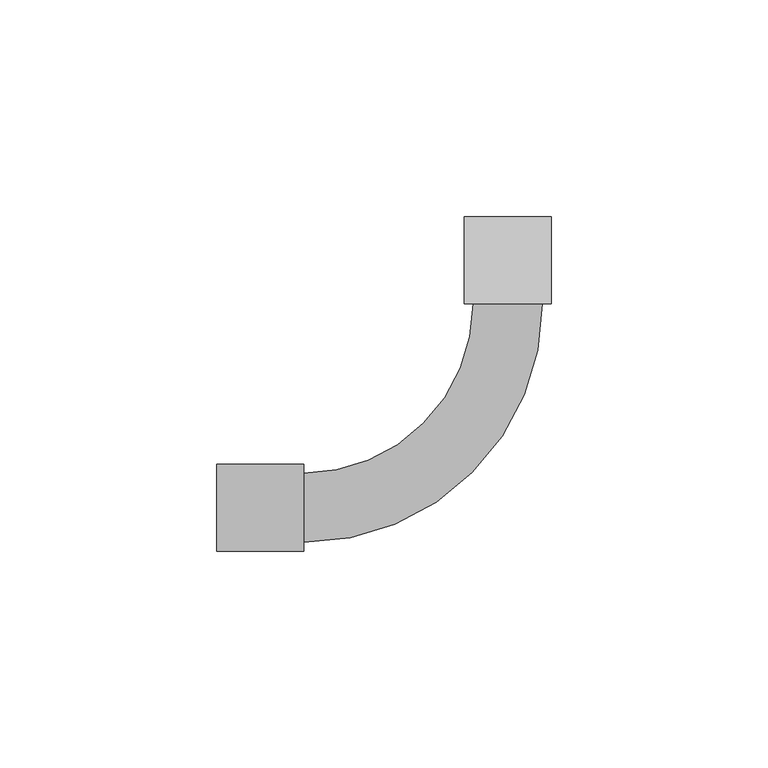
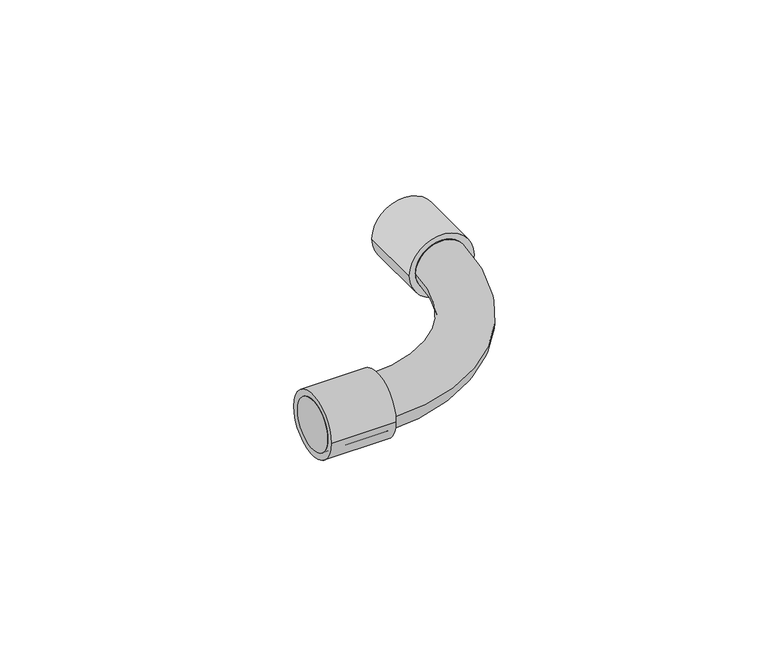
"""IFC4 building model written with IfcOpenShell, lengths in millimetres: cable carrier fitting geometry, Поворот на 90 труба-труба CRSG : Поворот на 90 труба-труба CRSG."""

import ifcopenshell
import ifcopenshell.guid

model = None  # the IFC model being written
_history = None  # IfcOwnerHistory: only IFC2X3 demands one
_inside = {}  # id of a spatial element -> (the spatial element, [elements in it])
_under = {}  # id of a project, library or spatial element -> (it, [spatial elements below it])
_declared = {}  # id of a project -> (the project, [libraries it declares])
_typed = {}  # id of a type object -> (the type object, [elements of that type])
_made_of = {}  # id of a material, layer set ... -> (it, [elements and type objects made of it])


def new_model(schema):
    """Start an empty IFC model of exactly this schema.

    Asked for "IFC4X3", IfcOpenShell would pick the latest addendum, in which some entities
    have other attributes; the version numbers below select the first issue.
    IFC2X3 requires an IfcOwnerHistory on every rooted entity: one is made here for all.
    """
    global model, _history
    if schema == "IFC4X3":
        model = ifcopenshell.file(schema_version=(4, 3, 0, 0))
    else:
        model = ifcopenshell.file(schema=schema)
    _inside.clear()
    _under.clear()
    _declared.clear()
    _typed.clear()
    _made_of.clear()
    _history = None
    if model.schema == "IFC2X3":
        org = make("IfcOrganization", Name="unknown")
        user = make(
            "IfcPersonAndOrganization",
            ThePerson=make("IfcPerson", FamilyName="unknown"),
            TheOrganization=org,
        )
        app = make(
            "IfcApplication",
            ApplicationDeveloper=org,
            Version="unknown",
            ApplicationFullName="unknown",
            ApplicationIdentifier="unknown",
        )
        _history = make(
            "IfcOwnerHistory",
            OwningUser=user,
            OwningApplication=app,
            ChangeAction="ADDED",
            CreationDate=0,
        )
    return model


def make(cls, **values):
    """One entity of the class cls with the attributes given. An attribute that is None is left unset."""
    return model.create_entity(
        cls, **{name: value for name, value in values.items() if value is not None}
    )


def rooted(cls, **values):
    """An entity with a GlobalId (a new one), such as an element, a storey or a relation."""
    return make(cls, GlobalId=ifcopenshell.guid.new(), OwnerHistory=_history, **values)


def si_unit(unit_type, name, prefix=None):
    """IfcSIUnit, for example si_unit("LENGTHUNIT", "METRE", prefix="MILLI")."""
    return make("IfcSIUnit", UnitType=unit_type, Prefix=prefix, Name=name)


def assignment(units):
    """IfcUnitAssignment: the units of a project."""
    return None if units is None else make("IfcUnitAssignment", Units=units)


def point(xyz):
    """IfcCartesianPoint."""
    return None if xyz is None else make("IfcCartesianPoint", Coordinates=xyz)


def direction(xyz):
    """IfcDirection."""
    return None if xyz is None else make("IfcDirection", DirectionRatios=xyz)


def frame(location, z_axis=None, x_axis=None):
    """IfcAxis2Placement3D, a coordinate frame: its origin and axes. An axis left out is left unset."""
    return make(
        "IfcAxis2Placement3D",
        Location=point(location),
        Axis=direction(z_axis),
        RefDirection=direction(x_axis),
    )


def frame_2d(location, x_axis=None):
    """IfcAxis2Placement2D, a coordinate frame in the plane: its origin and x axis."""
    return make(
        "IfcAxis2Placement2D", Location=point(location), RefDirection=direction(x_axis)
    )


def origin():
    """The frame at (0, 0, 0) with its axes left unset."""
    return frame((0.0, 0.0, 0.0))


def origin_2d():
    """The frame at (0, 0) in the plane with its x axis left unset."""
    return frame_2d((0.0, 0.0))


def place(relative_to, where):
    """IfcLocalPlacement: puts the frame where relative to a parent placement (None: the world)."""
    return make(
        "IfcLocalPlacement", PlacementRelTo=relative_to, RelativePlacement=where
    )


def context(
    kind, dimensions, precision=None, world=None, true_north=None, identifier=None
):
    """IfcGeometricRepresentationContext, for example the 3D "Model" context."""
    return make(
        "IfcGeometricRepresentationContext",
        ContextIdentifier=identifier,
        ContextType=kind,
        CoordinateSpaceDimension=dimensions,
        Precision=precision,
        WorldCoordinateSystem=world,
        TrueNorth=true_north,
    )


def project(units=None, contexts=None):
    """IfcProject with its units and contexts."""
    return rooted(
        "IfcProject",
        Name="project",
        RepresentationContexts=contexts,
        UnitsInContext=assignment(units),
    )


def spatial(cls, under=None, at=None, **own):
    """A site, building, storey or space (cls), placed at a placement, below another one or the project."""
    s = rooted(cls, ObjectPlacement=at, **own)
    if under is not None:
        _under.setdefault(under.id(), (under, []))[1].append(s)
    return s


def circle_curve(where, radius):
    """IfcCircle in the frame where."""
    return make("IfcCircle", Position=where, Radius=radius)


def ellipse_curve(where, semi_axis1, semi_axis2):
    """IfcEllipse in the frame where."""
    return make(
        "IfcEllipse", Position=where, SemiAxis1=semi_axis1, SemiAxis2=semi_axis2
    )


def trimmed(basis, trim1, trim2, sense, master):
    """IfcTrimmedCurve: the piece of a basis curve between two trims."""
    return make(
        "IfcTrimmedCurve",
        BasisCurve=basis,
        Trim1=trim1,
        Trim2=trim2,
        SenseAgreement=sense,
        MasterRepresentation=master,
    )


def segment(curve, same_sense, transition):
    """IfcCompositeCurveSegment."""
    return make(
        "IfcCompositeCurveSegment",
        Transition=transition,
        SameSense=same_sense,
        ParentCurve=curve,
    )


def composite_curve(segments, self_intersect=None):
    """IfcCompositeCurve: segments joined end to end."""
    return make("IfcCompositeCurve", Segments=segments, SelfIntersect=self_intersect)


def outline(outer, holes=None, kind="AREA"):
    """IfcArbitraryClosedProfileDef: a profile drawn as a closed curve; with holes, ...WithVoids."""
    if holes is None:
        return make("IfcArbitraryClosedProfileDef", ProfileType=kind, OuterCurve=outer)
    return make(
        "IfcArbitraryProfileDefWithVoids",
        ProfileType=kind,
        OuterCurve=outer,
        InnerCurves=holes,
    )


def extrude(swept, where, along, depth):
    """IfcExtrudedAreaSolid: the profile swept, set in the frame where, extruded along a direction by depth."""
    return make(
        "IfcExtrudedAreaSolid",
        SweptArea=swept,
        Position=where,
        ExtrudedDirection=direction(along),
        Depth=depth,
    )


def shape(context_of_items, identifier, shape_type, items):
    """IfcShapeRepresentation: the items that make up one representation, for example the "Body"."""
    return make(
        "IfcShapeRepresentation",
        ContextOfItems=context_of_items,
        RepresentationIdentifier=identifier,
        RepresentationType=shape_type,
        Items=items,
    )


def source(mapping_origin, context_of_items, identifier, shape_type, items):
    """IfcRepresentationMap: a shape defined once, which mapped items show again and again."""
    return make(
        "IfcRepresentationMap",
        MappingOrigin=mapping_origin,
        MappedRepresentation=shape(context_of_items, identifier, shape_type, items),
    )


def transform(
    local_origin,
    x_axis=None,
    y_axis=None,
    z_axis=None,
    scale=None,
    scale2=None,
    scale3=None,
    uniform=True,
):
    """IfcCartesianTransformationOperator3D, or its non-uniform kind. x_axis, y_axis, z_axis: its Axis1, 2, 3."""
    if uniform:
        return make(
            "IfcCartesianTransformationOperator3D",
            Axis1=direction(x_axis),
            Axis2=direction(y_axis),
            LocalOrigin=point(local_origin),
            Scale=scale,
            Axis3=direction(z_axis),
        )
    return make(
        "IfcCartesianTransformationOperator3DnonUniform",
        Axis1=direction(x_axis),
        Axis2=direction(y_axis),
        LocalOrigin=point(local_origin),
        Scale=scale,
        Axis3=direction(z_axis),
        Scale2=scale2,
        Scale3=scale3,
    )


def mapped(mapping_source, mapping_target):
    """IfcMappedItem: shows the shape of a source again, moved by a transform."""
    return make(
        "IfcMappedItem", MappingSource=mapping_source, MappingTarget=mapping_target
    )


def made_of(thing, what):
    """Note that an element or type object is made of a material, layer set ...; save() writes the relation."""
    if what is not None:
        _made_of.setdefault(what.id(), (what, []))[1].append(thing)
    return thing


def element(
    cls,
    number,
    at=None,
    inside=None,
    cuts=None,
    type_object=None,
    material=None,
    context=None,
    identifier="Body",
    shape_type=None,
    held_by="IfcProductDefinitionShape",
    body=None,
    shapes=None,
    **own,
):
    """One element of the class cls, such as IfcWall. Its Tag is "e" and its number.

    at: its placement. inside: the storey or other place that contains it. cuts: it is an
    opening in that element (IfcRelVoidsElement). A single representation is given by context,
    identifier, shape_type and body (its items); several are given by shapes. held_by: the class
    of the entity that holds the representations. save() writes the other relations.
    """
    e = rooted(cls, Tag="e%d" % number, ObjectPlacement=at, **own)
    if body is not None:
        shapes = [shape(context, identifier, shape_type, body)]
    if shapes is not None:
        e.Representation = make(held_by, Representations=shapes)
    if inside is not None:
        _inside.setdefault(inside.id(), (inside, []))[1].append(e)
    if cuts is not None:
        rooted(
            "IfcRelVoidsElement", RelatingBuildingElement=cuts, RelatedOpeningElement=e
        )
    if type_object is not None:
        _typed.setdefault(type_object.id(), (type_object, []))[1].append(e)
    return made_of(e, material)


def aggregate(whole, parts):
    """IfcRelAggregates: a whole, such as a stair, and the parts it consists of."""
    return rooted("IfcRelAggregates", RelatingObject=whole, RelatedObjects=parts)


def save(model, path):
    """Write the relations noted so far, then the file.

    IfcRelAggregates (storeys below a building ...), IfcRelContainedInSpatialStructure (elements
    in a storey), IfcRelDefinesByType, IfcRelAssociatesMaterial and IfcRelDeclares: one each for
    every whole, place, type object, material and project.
    """
    for whole, parts in _under.values():
        aggregate(whole, parts)
    for where, things in _inside.values():
        rooted(
            "IfcRelContainedInSpatialStructure",
            RelatedElements=things,
            RelatingStructure=where,
        )
    for kind, things in _typed.values():
        rooted("IfcRelDefinesByType", RelatedObjects=things, RelatingType=kind)
    for what, things in _made_of.values():
        rooted("IfcRelAssociatesMaterial", RelatedObjects=things, RelatingMaterial=what)
    for by, libraries in _declared.values():
        rooted("IfcRelDeclares", RelatingContext=by, RelatedDefinitions=libraries)
    model.write(path)


def plane_surface(at):
    """IfcPlane: the flat surface through the origin of the frame at, square to its z axis."""
    return make("IfcPlane", Position=at)


def cylinder_surface(at, radius):
    """IfcCylindricalSurface: all points at the distance radius from the z axis of the frame at."""
    return make("IfcCylindricalSurface", Position=at, Radius=radius)


def revolved_surface(curve, axis_point, axis_direction):
    """IfcSurfaceOfRevolution: the curve turned about the line through axis_point along axis_direction."""
    return make(
        "IfcSurfaceOfRevolution",
        SweptCurve=make("IfcArbitraryOpenProfileDef", ProfileType="CURVE", Curve=curve),
        AxisPosition=make("IfcAxis1Placement", Location=point(axis_point), Axis=direction(axis_direction)),
    )


def advanced_brep(points, edges, surfaces, faces):
    """IfcAdvancedBrep: a solid bounded by faces that lie on surfaces and meet in shared edges.

    An edge is (start, end): straight between two places in points (the first is 0);
    or (start, end, curve); or (start, end, curve, False) where it runs against its curve.
    A face is (place in surfaces, loops), or (place, loops, False) where it looks against
    its surface's normal. A loop lists edges by number (the first is 1), with a minus sign
    where the edge is run from its end to its start. The first loop is the outer one.
    """
    corners = [point(p) for p in points]
    vertices = [make("IfcVertexPoint", VertexGeometry=c) for c in corners]
    made = []
    for start, end, *more in edges:
        made.append(
            make(
                "IfcEdgeCurve",
                EdgeStart=vertices[start],
                EdgeEnd=vertices[end],
                EdgeGeometry=more[0] if more else make("IfcPolyline", Points=[corners[start], corners[end]]),
                SameSense=more[1] if len(more) > 1 else True,
            )
        )
    hull = []
    for where, loops, *sense in faces:
        bounds = []
        for j, loop in enumerate(loops):
            ring = [make("IfcOrientedEdge", EdgeElement=made[abs(k) - 1], Orientation=k > 0) for k in loop]
            bounds.append(
                make(
                    "IfcFaceOuterBound" if j == 0 else "IfcFaceBound",
                    Bound=make("IfcEdgeLoop", EdgeList=ring),
                    Orientation=True,
                )
            )
        hull.append(make("IfcAdvancedFace", Bounds=bounds, FaceSurface=surfaces[where], SameSense=sense[0] if sense else True))
    return make("IfcAdvancedBrep", Outer=make("IfcClosedShell", CfsFaces=hull))


def cable_carrier_fitting_4a6c0bc6(model_context):
    return source(origin(), model_context, "Body", "SolidModel", [
        advanced_brep(
        [(-67.0814, -7.99973, 0.0), (-67.0814, 7.99973, 0.0), (-47.0916, -7.99973, 0.0), (-47.0916, 7.99973, 0.0), (-7.99973, 47.0916, 0.0), (7.99973, 47.0916, 0.0), (7.99973, 67.0814, 0.0), (-7.99973, 67.0814, 0.0)],
        [
            (0, 1, circle_curve(frame((-67.0814, 0.0, 0.0), z_axis=(-1.0, 0.0, 0.0), x_axis=(0.0, 1.0, 0.0)), 7.99973)),
            (1, 0, circle_curve(frame((-67.0814, 0.0, 0.0), z_axis=(-1.0, 0.0, 0.0), x_axis=(0.0, 1.0, 0.0)), 7.99973)),
            (0, 2),
            (2, 3, circle_curve(frame((-47.0916, 0.0, 0.0), z_axis=(-1.0, 0.0, 0.0), x_axis=(0.0, 1.0, 0.0)), 7.99973)),
            (3, 1),
            (3, 2, circle_curve(frame((-47.0916, 0.0, 0.0), z_axis=(-1.0, 0.0, 0.0), x_axis=(0.0, 1.0, 0.0)), 7.99973)),
            (4, 3, circle_curve(frame((-47.0916, 47.0916, 0.0), z_axis=(0.0, 0.0, -1.0), x_axis=(0.0, -1.0, 0.0)), 39.09187)),
            (2, 5, circle_curve(frame((-47.0916, 47.0916, 0.0), z_axis=(0.0, 0.0, 1.0), x_axis=(0.0, -1.0, 0.0)), 55.09133)),
            (5, 4, circle_curve(frame((0.0, 47.0916, 0.0), z_axis=(0.0, -1.0, 0.0), x_axis=(-1.0, 0.0, 0.0)), 7.99973)),
            (4, 5, circle_curve(frame((0.0, 47.0916, 0.0), z_axis=(0.0, -1.0, 0.0), x_axis=(-1.0, 0.0, 0.0)), 7.99973)),
            (6, 7, circle_curve(frame((0.0, 67.0814, 0.0), z_axis=(0.0, 1.0, 0.0), x_axis=(-1.0, 0.0, 0.0)), 7.99973)),
            (7, 6, circle_curve(frame((0.0, 67.0814, 0.0), z_axis=(0.0, 1.0, 0.0), x_axis=(-1.0, 0.0, 0.0)), 7.99973)),
            (5, 6),
            (7, 4),
        ],
        [
            plane_surface(frame((-67.0814, 0.0, 0.0), z_axis=(-1.0, 0.0, 0.0), x_axis=(0.0, 0.0, 1.0))),
            cylinder_surface(frame((-67.0814, 0.0, 0.0), z_axis=(-1.0, 0.0, 0.0), x_axis=(0.0, 1.0, 0.0)), 7.99973),
            revolved_surface(trimmed(ellipse_curve(frame((-47.0916, 0.0, 0.0), z_axis=(-1.0, 0.0, 0.0), x_axis=(0.0, 1.0, 0.0)), 7.99973, 7.99973), [point((-47.0916, -7.99973, 0.0))], [point((-47.0916, 7.99973, 0.0))], True, "CARTESIAN"), (-47.0916, 47.0916, 0.0), (0.0, 0.0, 1.0)),
            revolved_surface(trimmed(ellipse_curve(frame((-47.0916, 0.0, 0.0), z_axis=(-1.0, 0.0, 0.0), x_axis=(0.0, 1.0, 0.0)), 7.99973, 7.99973), [point((-47.0916, 7.99973, 0.0))], [point((-47.0916, -7.99973, 0.0))], True, "CARTESIAN"), (-47.0916, 47.0916, 0.0), (0.0, 0.0, 1.0)),
            plane_surface(frame((0.0, 67.0814, 0.0), z_axis=(0.0, 1.0, 0.0), x_axis=(0.0, 0.0, 1.0))),
            cylinder_surface(frame((0.0, 47.0916, 0.0), z_axis=(0.0, -1.0, 0.0), x_axis=(-1.0, 0.0, 0.0)), 7.99973),
        ],
        [
            (0, [[1, 2]]),
            (1, [[-1, 3, 4, 5]]),
            (1, [[-2, -5, 6, -3]]),
            (2, [[7, -4, 8, 9]]),
            (3, [[-8, -6, -7, 10]]),
            (4, [[11, 12]]),
            (5, [[-9, 13, -12, 14]]),
            (5, [[-10, -14, -11, -13]]),
        ],
    ),
        extrude(outline(composite_curve([segment(trimmed(circle_curve(origin_2d(), 10.0), [point((-10.0, 0.0))], [point((10.0, 0.0))], False, "CARTESIAN"), True, "CONTINUOUS"), segment(trimmed(circle_curve(origin_2d(), 10.0), [point((10.0, 0.0))], [point((-10.0, 0.0))], False, "CARTESIAN"), True, "CONTINUOUS")], self_intersect=False)), frame((-67.0814, 0.0, 0.0), z_axis=(1.0, 0.0, 0.0), x_axis=(0.0, 1.0, 0.0)), (0.0, 0.0, 1.0), 19.9898),
        extrude(outline(composite_curve([segment(trimmed(circle_curve(origin_2d(), 10.0), [point((0.0, 10.0))], [point((0.0, -10.0))], False, "CARTESIAN"), True, "CONTINUOUS"), segment(trimmed(circle_curve(origin_2d(), 10.0), [point((0.0, -10.0))], [point((0.0, 10.0))], False, "CARTESIAN"), True, "CONTINUOUS")], self_intersect=False)), frame((0.0, 47.0916, 0.0), z_axis=(0.0, 1.0, 0.0), x_axis=(0.0, 0.0, 1.0)), (0.0, 0.0, 1.0), 19.9898),
    ])


if __name__ == "__main__":
    model = new_model("IFC4")
    model_context = context("Model", 3, world=origin())
    ifc_project = project(units=[si_unit("LENGTHUNIT", "METRE", prefix="MILLI")], contexts=[model_context])
    site = spatial("IfcSite", under=ifc_project)
    building = spatial("IfcBuilding", under=site)
    placement = place(None, origin())
    cable_carrier_fitting_shape = cable_carrier_fitting_4a6c0bc6(model_context)
    element("IfcCableCarrierFitting", 1, ObjectType="Поворот на 90 труба-труба CRSG : Поворот на 90 труба-труба CRSG", at=placement, inside=building, context=model_context, shape_type="MappedRepresentation", body=[
        mapped(cable_carrier_fitting_shape, transform((0.0, 0.0, 0.0), x_axis=(1.0, 0.0, 0.0), y_axis=(0.0, 1.0, 0.0), z_axis=(0.0, 0.0, 1.0))),
    ])
    save(model, "model.ifc")
